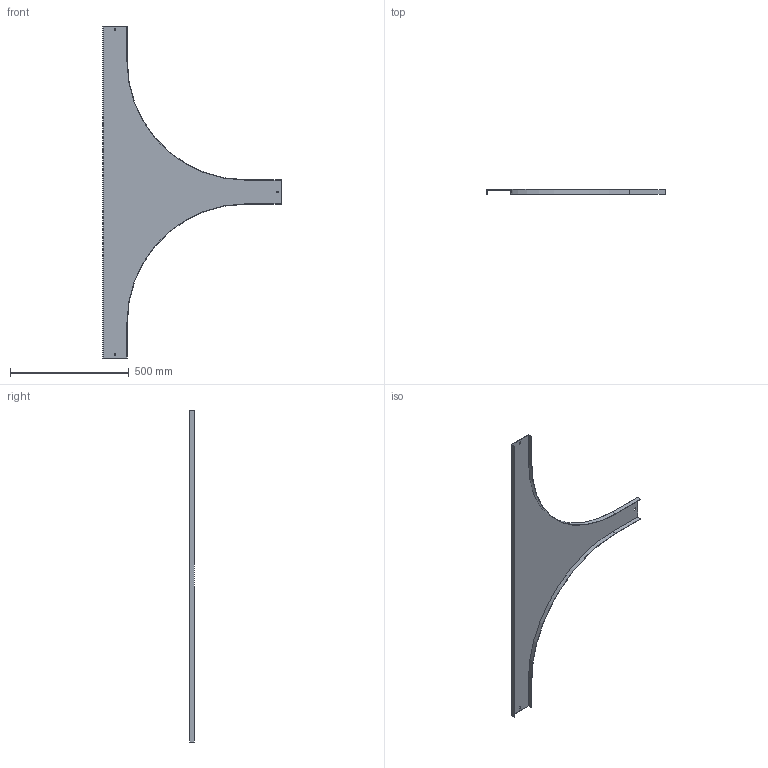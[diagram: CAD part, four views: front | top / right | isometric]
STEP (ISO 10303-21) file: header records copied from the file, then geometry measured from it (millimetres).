
FILE_DESCRIPTION (( 'STEP AP214' ), '1' );
FILE_NAME ('15N5R100.step', '2025-02-21T12:05:50', ( '' ), ( '' ), 'SwSTEP 2.0', 'SolidWorks 2023', '' );
FILE_SCHEMA (( 'AUTOMOTIVE_DESIGN' ));
Length unit declared in the file: millimetre
Products named in the file (1): 15N5R100
Bounding box: 751.5 x 20 x 1400 mm (x, y, z)
Volume: 575241.3 mm3; surface area: 773107.1 mm2
Topology: 1 solids, 1 shells, 34 faces, 96 edges, 64 vertices
Faces by surface type: plane 30, cylinder 4
Entity records: 1123 total; most frequent: CARTESIAN_POINT 195, ORIENTED_EDGE 192, DIRECTION 174, EDGE_CURVE 96, VECTOR 88, LINE 88, VERTEX_POINT 64, AXIS2_PLACEMENT_3D 43
